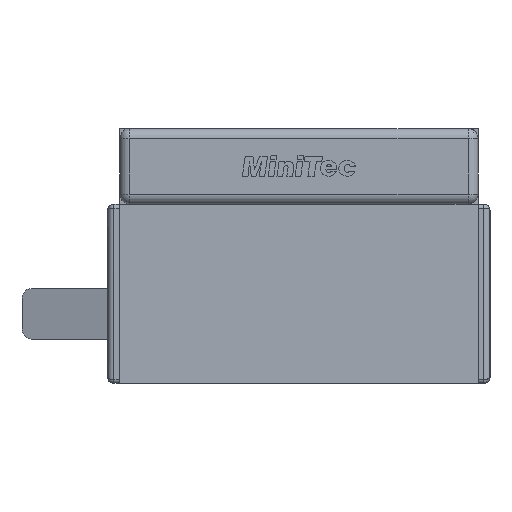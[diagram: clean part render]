
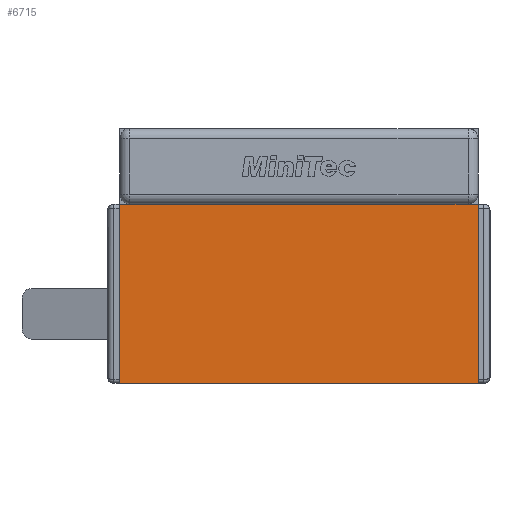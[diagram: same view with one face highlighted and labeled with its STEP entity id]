
A CAD part, left-side view. The second image highlights one B-rep face of the part: STEP entity #6715.
In plain terms, the highlighted planar face has unit normal (-1, 0, 0) as drawn and (0, 1, 0) by its records, which use the part's own axes.
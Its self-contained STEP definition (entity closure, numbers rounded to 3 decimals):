
#6154=CARTESIAN_POINT('',(-22.5,9.5,-44.996));
#6155=VERTEX_POINT('',#6154);
#6162=CARTESIAN_POINT('',(22.5,9.5,-44.996));
#6163=VERTEX_POINT('',#6162);
#6164=CARTESIAN_POINT('',(22.5,9.5,-44.996));
#6165=DIRECTION('',(-1.0,0.0,0.0));
#6166=VECTOR('',#6165,45.);
#6167=LINE('',#6164,#6166);
#6168=EDGE_CURVE('',#6163,#6155,#6167,.T.);
#6673=CARTESIAN_POINT('',(-22.5,9.5,44.996));
#6674=VERTEX_POINT('',#6673);
#6681=CARTESIAN_POINT('',(-22.5,9.5,-44.996));
#6682=DIRECTION('',(0.0,0.0,1.0));
#6683=VECTOR('',#6682,89.992);
#6684=LINE('',#6681,#6683);
#6685=EDGE_CURVE('',#6155,#6674,#6684,.T.);
#6692=CARTESIAN_POINT('',(-22.5,9.5,0.0));
#6693=DIRECTION('',(0.0,1.0,0.0));
#6694=DIRECTION('',(0.0,0.0,1.0));
#6695=AXIS2_PLACEMENT_3D('',#6692,#6693,#6694);
#6696=PLANE('',#6695);
#6697=CARTESIAN_POINT('',(22.5,9.5,44.996));
#6698=VERTEX_POINT('',#6697);
#6699=CARTESIAN_POINT('',(-22.5,9.5,44.996));
#6700=DIRECTION('',(1.0,0.0,0.0));
#6701=VECTOR('',#6700,45.);
#6702=LINE('',#6699,#6701);
#6703=EDGE_CURVE('',#6674,#6698,#6702,.T.);
#6704=ORIENTED_EDGE('',*,*,#6703,.T.);
#6705=CARTESIAN_POINT('',(22.5,9.5,-44.996));
#6706=DIRECTION('',(0.0,0.0,1.0));
#6707=VECTOR('',#6706,89.992);
#6708=LINE('',#6705,#6707);
#6709=EDGE_CURVE('',#6163,#6698,#6708,.T.);
#6710=ORIENTED_EDGE('',*,*,#6709,.F.);
#6711=ORIENTED_EDGE('',*,*,#6168,.T.);
#6712=ORIENTED_EDGE('',*,*,#6685,.T.);
#6713=EDGE_LOOP('',(#6704,#6710,#6711,#6712));
#6714=FACE_OUTER_BOUND('',#6713,.T.);
#6715=ADVANCED_FACE('',(#6714),#6696,.T.);
